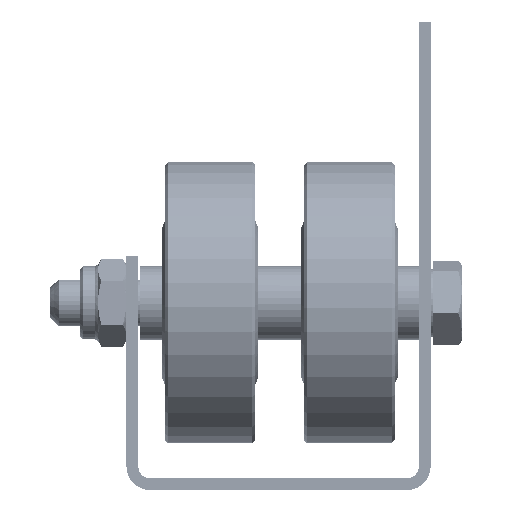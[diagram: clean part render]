
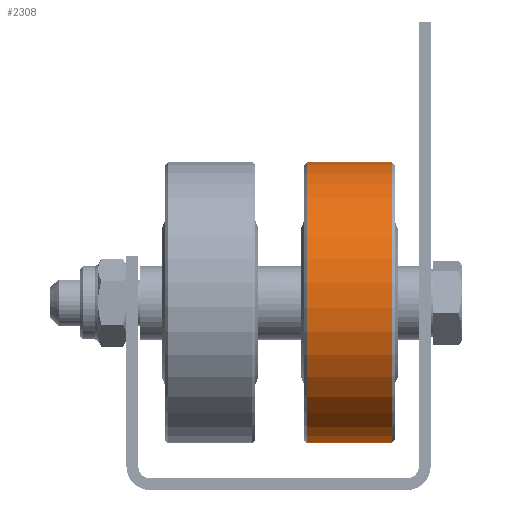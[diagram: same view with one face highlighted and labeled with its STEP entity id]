
A CAD part, front view. The second image highlights one B-rep face of the part: STEP entity #2308.
In plain terms, the highlighted cylindrical face has radius 24 mm (diameter 48 mm), a full revolution.
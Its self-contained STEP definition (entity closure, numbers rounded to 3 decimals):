
#2308 = ADVANCED_FACE( '', ( #4030, #4031 ), #4032, .T. );
#4030 = FACE_OUTER_BOUND( '', #5480, .T. );
#4031 = FACE_OUTER_BOUND( '', #5481, .T. );
#4032 = CYLINDRICAL_SURFACE( '', #5482, 24. );
#5480 = EDGE_LOOP( '', ( #7660 ) );
#5481 = EDGE_LOOP( '', ( #7661 ) );
#5482 = AXIS2_PLACEMENT_3D( '', #7662, #7663, #7664 );
#7660 = ORIENTED_EDGE( '', *, *, #8644, .T. );
#7661 = ORIENTED_EDGE( '', *, *, #8587, .T. );
#7662 = CARTESIAN_POINT( '', ( 0., -7.75, 0. ) );
#7663 = DIRECTION( '', ( 0., -1., 0. ) );
#7664 = DIRECTION( '', ( 0., 0., 1. ) );
#8587 = EDGE_CURVE( '', #9735, #9735, #9736, .T. );
#8644 = EDGE_CURVE( '', #9821, #9821, #9822, .F. );
#9735 = VERTEX_POINT( '', #11218 );
#9736 = CIRCLE( '', #11219, 24. );
#9821 = VERTEX_POINT( '', #11348 );
#9822 = CIRCLE( '', #11349, 24. );
#11218 = CARTESIAN_POINT( '', ( 0., -7.25, 24. ) );
#11219 = AXIS2_PLACEMENT_3D( '', #12827, #12828, #12829 );
#11348 = CARTESIAN_POINT( '', ( 0., 7.25, 24. ) );
#11349 = AXIS2_PLACEMENT_3D( '', #12902, #12903, #12904 );
#12827 = CARTESIAN_POINT( '', ( 0., -7.25, 0. ) );
#12828 = DIRECTION( '', ( 0., 1., 0. ) );
#12829 = DIRECTION( '', ( 0., 0., 1. ) );
#12902 = CARTESIAN_POINT( '', ( 0., 7.25, 0. ) );
#12903 = DIRECTION( '', ( 0., 1., 0. ) );
#12904 = DIRECTION( '', ( 0., 0., 1. ) );
